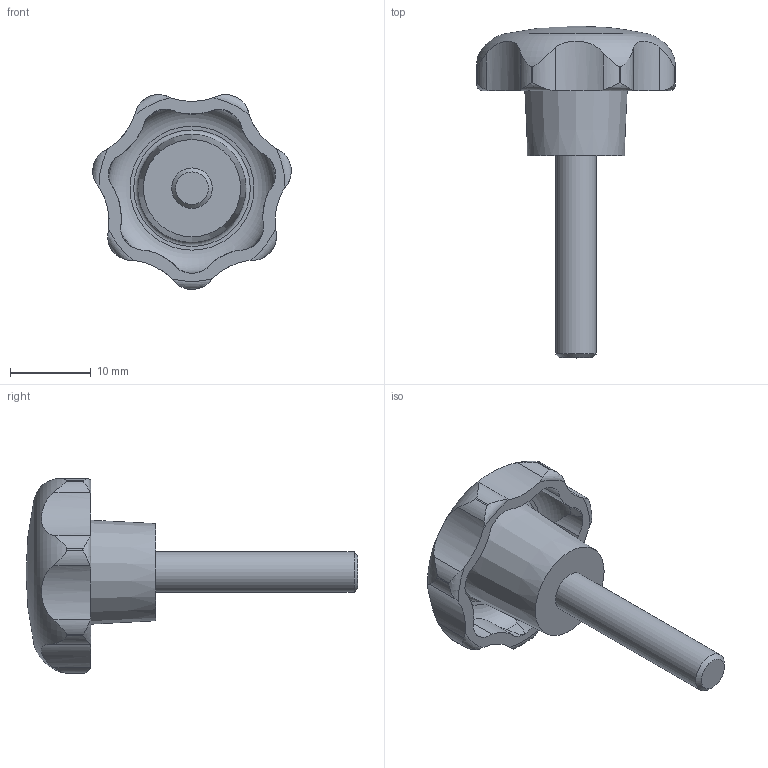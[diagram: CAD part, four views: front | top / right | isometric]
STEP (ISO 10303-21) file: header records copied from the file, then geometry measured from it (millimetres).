
FILE_DESCRIPTION( ( 'STEP AP203' ), '1' );
FILE_NAME( 'C:/Temp/Ganter_Step_05_03_2020/data/2_2/gn_6336_4/gn_6336_4_st/Star knob GN 6336.4-ST-25-M5-25.stp', '2020-03-05T12:07:14', ( 'License CC BY-ND 4.0' ), ( 'CADENAS' ), ' ', 'PARTsolutions', ' ' );
FILE_SCHEMA( ( 'CONFIG_CONTROL_DESIGN' ) );
Length unit declared in the file: millimetre
Products named in the file (1): _Star knob GN 6336.4-ST-25-M5-25
Bounding box: 24.52 x 41 x 24.06 mm (x, y, z)
Volume: 3617.7 mm3; surface area: 2407.9 mm2
Topology: 1 solids, 1 shells, 74 faces, 209 edges, 138 vertices
Faces by surface type: cylinder 50, torus 10, cone 10, plane 3, sphere 1
Full cylindrical faces by diameter (mm): 5 x1
Entity records: 3129 total; most frequent: CARTESIAN_POINT 1317, ORIENTED_EDGE 394, DIRECTION 336, EDGE_CURVE 197, AXIS2_PLACEMENT_3D 147, VERTEX_POINT 135, EDGE_LOOP 83, B_SPLINE_CURVE_WITH_KNOTS 83
